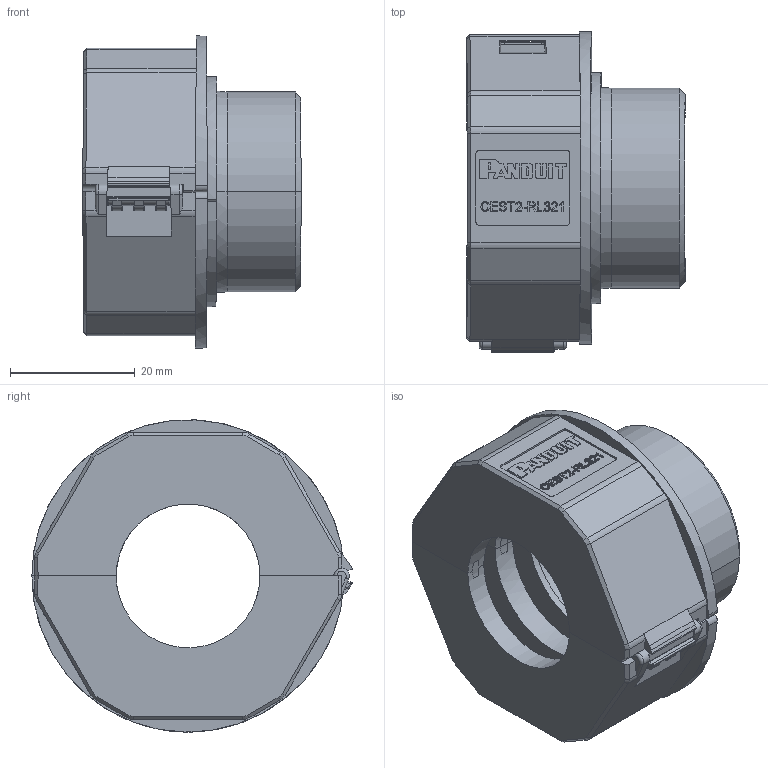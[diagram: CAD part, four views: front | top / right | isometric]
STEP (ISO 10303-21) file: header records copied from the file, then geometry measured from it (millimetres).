
FILE_DESCRIPTION(/* description */ (''),/* implementation_level */ '2;1');
FILE_NAME(/* name */ 'C:\SapWorkDir\Inventor\MP1\ConvertTempPath\87_11_121436_00_A_220615_KDL-D mono M32x1,5.stp',/* time_stamp */ '2022-06-17T11:27:41+02:00',/* author */ ('BAUER'),/* organization */ (''),/* preprocessor_version */ 'ST-DEVELOPER v16.13',/* originating_system */ 'Autodesk Inventor 2018',/* authorisation */ '');
FILE_SCHEMA (('AUTOMOTIVE_DESIGN { 1 0 10303 214 3 1 1 }'));
Length unit declared in the file: millimetre
Products named in the file (5): 121436; 121443; DHS-2_M32; DHS-2_M32_1; 121437
Assembly tree (4 placements, depth 2):
  121436
    121443
    DHS-2_M32
    DHS-2_M32_1
    121437
Bounding box: 35.01 x 51.26 x 49.97 mm (x, y, z)
Volume: 25167.2 mm3; surface area: 17557.2 mm2
Topology: 4 solids, 4 shells, 973 faces, 2644 edges, 1723 vertices
Faces by surface type: plane 568, cylinder 214, bspline 169, cone 12, torus 8, sphere 2
Full cylindrical faces by diameter (mm): 5 x1
Entity records: 33182 total; most frequent: CARTESIAN_POINT 8966, ORIENTED_EDGE 5284, DIRECTION 4495, EDGE_CURVE 2642, LINE 1813, VECTOR 1813, VERTEX_POINT 1722, AXIS2_PLACEMENT_3D 1341
